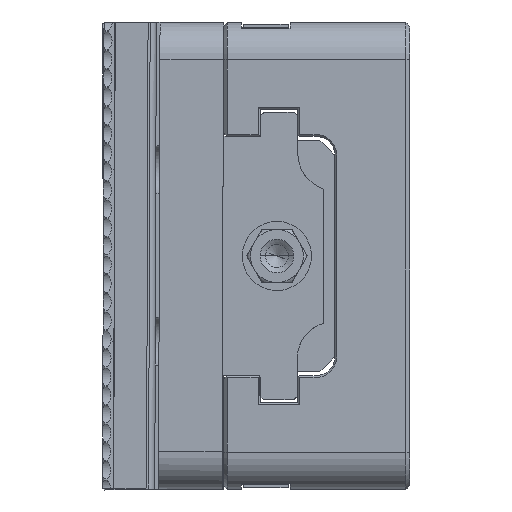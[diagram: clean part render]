
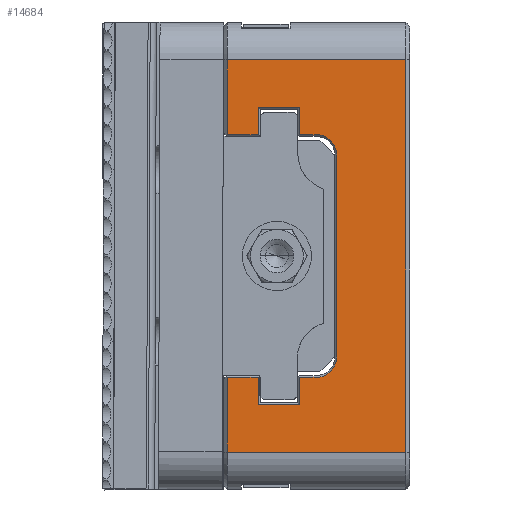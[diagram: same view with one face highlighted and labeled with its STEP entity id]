
A CAD part, left-side view. The second image highlights one B-rep face of the part: STEP entity #14684.
In plain terms, the highlighted planar face has unit normal (-1, 0, 0).
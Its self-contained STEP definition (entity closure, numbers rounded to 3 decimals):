
#1=CARTESIAN_POINT('',(-125.,27.,-5.));
#2=DIRECTION('',(1.,0.,0.));
#3=DIRECTION('',(0.,0.,-1.));
#4=AXIS2_PLACEMENT_3D('',#1,#2,#3);
#6=CARTESIAN_POINT('',(-125.,-27.,-5.));
#7=DIRECTION('',(1.,0.,0.));
#8=DIRECTION('',(0.,-1.,0.));
#9=AXIS2_PLACEMENT_3D('',#6,#7,#8);
#15=DIRECTION('',(0.,1.,0.));
#16=VECTOR('',#15,7.25);
#17=CARTESIAN_POINT('',(-125.,-39.75,10.5));
#18=LINE('',#17,#16);
#3604=DIRECTION('',(0.,-1.,0.));
#3605=VECTOR('',#3604,54.);
#3606=CARTESIAN_POINT('',(-125.,27.,-10.5));
#3607=LINE('',#3606,#3605);
#3629=DIRECTION('',(0.,0.,1.));
#3630=VECTOR('',#3629,4.5);
#3631=CARTESIAN_POINT('',(-125.,-32.5,-5.));
#3632=LINE('',#3631,#3630);
#3641=DIRECTION('',(0.,-1.,0.));
#3642=VECTOR('',#3641,7.25);
#3643=CARTESIAN_POINT('',(-125.,-32.5,-0.5));
#3644=LINE('',#3643,#3642);
#3649=DIRECTION('',(0.,0.,1.));
#3650=VECTOR('',#3649,11.);
#3651=CARTESIAN_POINT('',(-125.,-39.75,-0.5));
#3652=LINE('',#3651,#3650);
#3661=DIRECTION('',(0.,0.,-1.));
#3662=VECTOR('',#3661,4.5);
#3663=CARTESIAN_POINT('',(-125.,32.5,-0.5));
#3664=LINE('',#3663,#3662);
#3677=DIRECTION('',(0.,-1.,0.));
#3678=VECTOR('',#3677,7.25);
#3679=CARTESIAN_POINT('',(-125.,39.75,-0.5));
#3680=LINE('',#3679,#3678);
#3879=DIRECTION('',(0.,0.,1.));
#3880=VECTOR('',#3879,8.3);
#3881=CARTESIAN_POINT('',(-125.,-32.5,10.5));
#3882=LINE('',#3881,#3880);
#3883=DIRECTION('',(0.,-1.,0.));
#3884=VECTOR('',#3883,20.);
#3885=CARTESIAN_POINT('',(-125.,-32.5,18.8));
#3886=LINE('',#3885,#3884);
#9227=DIRECTION('',(0.,0.,-1.));
#9228=VECTOR('',#9227,47.8);
#9229=CARTESIAN_POINT('',(-125.,-52.5,18.8));
#9230=LINE('',#9229,#9228);
#9603=DIRECTION('',(0.,1.,0.));
#9604=VECTOR('',#9603,105.);
#9605=CARTESIAN_POINT('',(-125.,-52.5,-29.));
#9606=LINE('',#9605,#9604);
#9619=DIRECTION('',(0.,0.,1.));
#9620=VECTOR('',#9619,47.8);
#9621=CARTESIAN_POINT('',(-125.,52.5,-29.));
#9622=LINE('',#9621,#9620);
#10006=DIRECTION('',(0.,-1.,0.));
#10007=VECTOR('',#10006,20.);
#10008=CARTESIAN_POINT('',(-125.,52.5,18.8));
#10009=LINE('',#10008,#10007);
#10018=DIRECTION('',(0.,0.,-1.));
#10019=VECTOR('',#10018,8.3);
#10020=CARTESIAN_POINT('',(-125.,32.5,18.8));
#10021=LINE('',#10020,#10019);
#10034=DIRECTION('',(0.,1.,0.));
#10035=VECTOR('',#10034,7.25);
#10036=CARTESIAN_POINT('',(-125.,32.5,10.5));
#10037=LINE('',#10036,#10035);
#10042=DIRECTION('',(0.,0.,-1.));
#10043=VECTOR('',#10042,11.);
#10044=CARTESIAN_POINT('',(-125.,39.75,10.5));
#10045=LINE('',#10044,#10043);
#11746=CARTESIAN_POINT('',(-125.,-32.5,10.5));
#11747=CARTESIAN_POINT('',(-125.,-32.5,18.8));
#11748=VERTEX_POINT('',#11746);
#11749=VERTEX_POINT('',#11747);
#11750=CARTESIAN_POINT('',(-125.,-52.5,18.8));
#11751=VERTEX_POINT('',#11750);
#11752=CARTESIAN_POINT('',(-125.,-52.5,-29.));
#11753=VERTEX_POINT('',#11752);
#11754=CARTESIAN_POINT('',(-125.,52.5,-29.));
#11755=VERTEX_POINT('',#11754);
#11756=CARTESIAN_POINT('',(-125.,52.5,18.8));
#11757=VERTEX_POINT('',#11756);
#11758=CARTESIAN_POINT('',(-125.,32.5,18.8));
#11759=VERTEX_POINT('',#11758);
#11760=CARTESIAN_POINT('',(-125.,32.5,10.5));
#11761=VERTEX_POINT('',#11760);
#11762=CARTESIAN_POINT('',(-125.,39.75,10.5));
#11763=VERTEX_POINT('',#11762);
#11764=CARTESIAN_POINT('',(-125.,39.75,-0.5));
#11765=VERTEX_POINT('',#11764);
#11766=CARTESIAN_POINT('',(-125.,32.5,-0.5));
#11767=VERTEX_POINT('',#11766);
#11768=CARTESIAN_POINT('',(-125.,32.5,-5.));
#11769=VERTEX_POINT('',#11768);
#11770=CARTESIAN_POINT('',(-125.,27.,-10.5));
#11771=VERTEX_POINT('',#11770);
#11772=CARTESIAN_POINT('',(-125.,-27.,-10.5));
#11773=VERTEX_POINT('',#11772);
#11774=CARTESIAN_POINT('',(-125.,-32.5,-5.));
#11775=VERTEX_POINT('',#11774);
#11776=CARTESIAN_POINT('',(-125.,-32.5,-0.5));
#11777=VERTEX_POINT('',#11776);
#11778=CARTESIAN_POINT('',(-125.,-39.75,-0.5));
#11779=VERTEX_POINT('',#11778);
#11780=CARTESIAN_POINT('',(-125.,-39.75,10.5));
#11781=VERTEX_POINT('',#11780);
#14641=CARTESIAN_POINT('',(-125.,62.5,-20.));
#14642=DIRECTION('',(-1.,0.,0.));
#14643=DIRECTION('',(0.,-1.,0.));
#14644=AXIS2_PLACEMENT_3D('',#14641,#14642,#14643);
#14645=PLANE('',#14644);
#14647=ORIENTED_EDGE('',*,*,#14646,.T.);
#14649=ORIENTED_EDGE('',*,*,#14648,.T.);
#14651=ORIENTED_EDGE('',*,*,#14650,.T.);
#14653=ORIENTED_EDGE('',*,*,#14652,.T.);
#14655=ORIENTED_EDGE('',*,*,#14654,.T.);
#14657=ORIENTED_EDGE('',*,*,#14656,.T.);
#14659=ORIENTED_EDGE('',*,*,#14658,.T.);
#14661=ORIENTED_EDGE('',*,*,#14660,.T.);
#14663=ORIENTED_EDGE('',*,*,#14662,.T.);
#14665=ORIENTED_EDGE('',*,*,#14664,.T.);
#14667=ORIENTED_EDGE('',*,*,#14666,.T.);
#14669=ORIENTED_EDGE('',*,*,#14668,.T.);
#14671=ORIENTED_EDGE('',*,*,#14670,.F.);
#14673=ORIENTED_EDGE('',*,*,#14672,.T.);
#14675=ORIENTED_EDGE('',*,*,#14674,.F.);
#14677=ORIENTED_EDGE('',*,*,#14676,.T.);
#14679=ORIENTED_EDGE('',*,*,#14678,.T.);
#14681=ORIENTED_EDGE('',*,*,#14680,.T.);
#14682=EDGE_LOOP('',(#14647,#14649,#14651,#14653,#14655,#14657,#14659,#14661,
#14663,#14665,#14667,#14669,#14671,#14673,#14675,#14677,#14679,#14681));
#14683=FACE_OUTER_BOUND('',#14682,.F.);
#14684=ADVANCED_FACE('',(#14683),#14645,.T.);
#5=CIRCLE('',#4,5.5);
#10=CIRCLE('',#9,5.5);
#14646=EDGE_CURVE('',#11781,#11748,#18,.T.);
#14648=EDGE_CURVE('',#11748,#11749,#3882,.T.);
#14650=EDGE_CURVE('',#11749,#11751,#3886,.T.);
#14652=EDGE_CURVE('',#11751,#11753,#9230,.T.);
#14654=EDGE_CURVE('',#11753,#11755,#9606,.T.);
#14656=EDGE_CURVE('',#11755,#11757,#9622,.T.);
#14658=EDGE_CURVE('',#11757,#11759,#10009,.T.);
#14660=EDGE_CURVE('',#11759,#11761,#10021,.T.);
#14662=EDGE_CURVE('',#11761,#11763,#10037,.T.);
#14664=EDGE_CURVE('',#11763,#11765,#10045,.T.);
#14666=EDGE_CURVE('',#11765,#11767,#3680,.T.);
#14668=EDGE_CURVE('',#11767,#11769,#3664,.T.);
#14670=EDGE_CURVE('',#11771,#11769,#5,.T.);
#14672=EDGE_CURVE('',#11771,#11773,#3607,.T.);
#14674=EDGE_CURVE('',#11775,#11773,#10,.T.);
#14676=EDGE_CURVE('',#11775,#11777,#3632,.T.);
#14678=EDGE_CURVE('',#11777,#11779,#3644,.T.);
#14680=EDGE_CURVE('',#11779,#11781,#3652,.T.);
